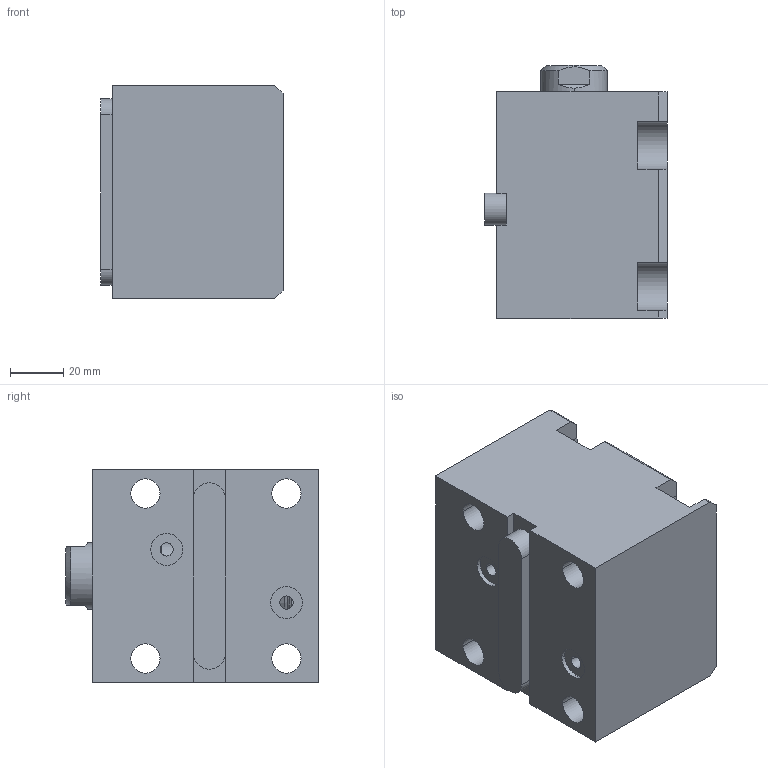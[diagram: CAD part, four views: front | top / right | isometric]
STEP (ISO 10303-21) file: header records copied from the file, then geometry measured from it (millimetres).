
FILE_DESCRIPTION (( 'STEP AP214' ), '1' );
FILE_NAME ('chtb-lam40x30n_asm.STEP', '2018-05-30T01:16:13', ( 'Windows' ), ( 'Microsoft' ), 'SwSTEP 2.0', 'SolidWorks 2015', '' );
FILE_SCHEMA (( 'AUTOMOTIVE_DESIGN' ));
Length unit declared in the file: millimetre
Products named in the file (5): CHTB-SD40X30NHSG; CHTB-SD40QG; CHTB-LAM40X30NBT; CHTB-LA40PJ; chtb-lam40x30n_asm
Assembly tree (4 placements, depth 2):
  chtb-lam40x30n_asm
    CHTB-LA40PJ
    CHTB-LAM40X30NBT
    CHTB-SD40QG
    CHTB-SD40X30NHSG
Bounding box: 68.5 x 95 x 80 mm (x, y, z)
Volume: 376792.8 mm3; surface area: 78799.8 mm2
Topology: 4 solids, 4 shells, 154 faces, 418 edges, 278 vertices
Faces by surface type: cylinder 73, plane 46, bspline 14, torus 12, cone 9
Entity records: 10092 total; most frequent: CARTESIAN_POINT 6074, ORIENTED_EDGE 824, DIRECTION 755, EDGE_CURVE 412, AXIS2_PLACEMENT_3D 300, VERTEX_POINT 278, EDGE_LOOP 180, LINE 155
